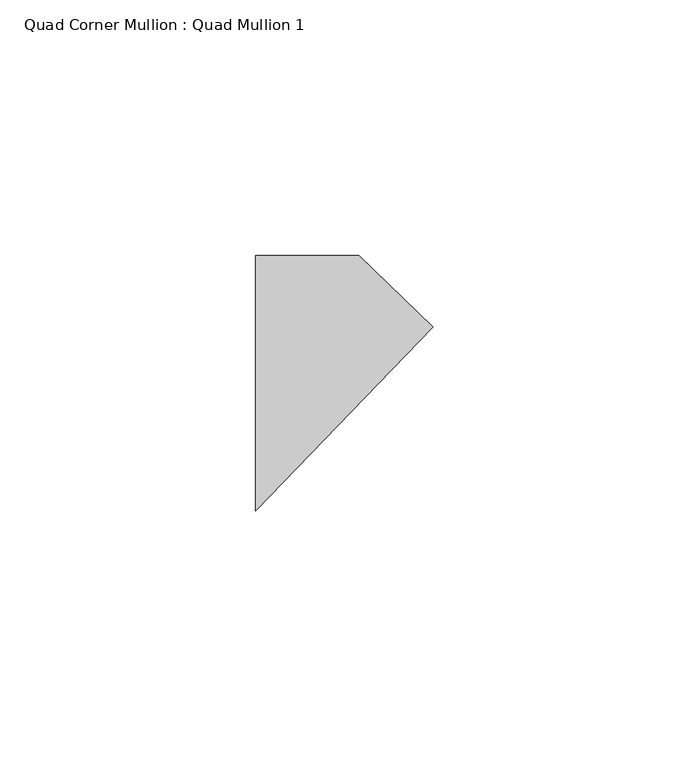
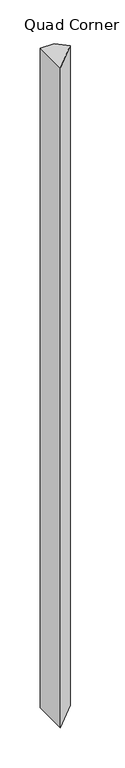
"""IFC4 building model written with IfcOpenShell, lengths in millimetres: member geometry, Quad Corner Mullion : Quad Mullion 1."""

from ifc_helpers import new_model, si_unit, frame, origin, place, context, project, spatial, polyline, outline, extrude, source, transform, mapped, element, save


def quad_corner_mullion_quad_mullion_1_3b44b17d(model_context):
    return source(origin(), model_context, "Body", "SweptSolid", [
        extrude(outline(polyline([(24.6322629, 10.96699), (-10.1006556, -25.0), (-10.1006556, 25.0), (10.1006556, 25.0), (24.6322629, 10.96699)])), frame((0.0, 0.0, -1000.0), z_axis=(0.0, 0.0, 1.0), x_axis=(1.0, 0.0, 0.0)), (0.0, 0.0, 1.0), 1000.0),
    ])


if __name__ == "__main__":
    model = new_model("IFC4")
    model_context = context("Model", 3, world=origin())
    ifc_project = project(units=[si_unit("LENGTHUNIT", "METRE", prefix="MILLI")], contexts=[model_context])
    site = spatial("IfcSite", under=ifc_project)
    building = spatial("IfcBuilding", under=site)
    placement = place(None, origin())
    quad_corner_mullion_quad_mullion_1_shape = quad_corner_mullion_quad_mullion_1_3b44b17d(model_context)
    element("IfcMember", 1, ObjectType="Quad Corner Mullion : Quad Mullion 1", at=placement, inside=building, context=model_context, shape_type="MappedRepresentation", body=[
        mapped(quad_corner_mullion_quad_mullion_1_shape, transform((0.0, 0.0, 0.0), x_axis=(1.0, 0.0, 0.0), y_axis=(0.0, 1.0, 0.0), z_axis=(0.0, 0.0, 1.0))),
    ])
    save(model, "model.ifc")
